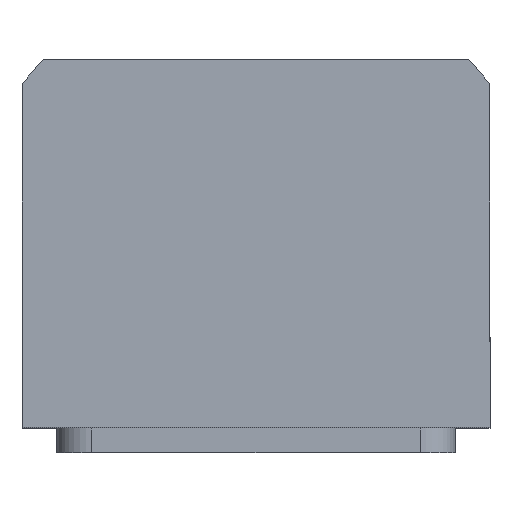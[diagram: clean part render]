
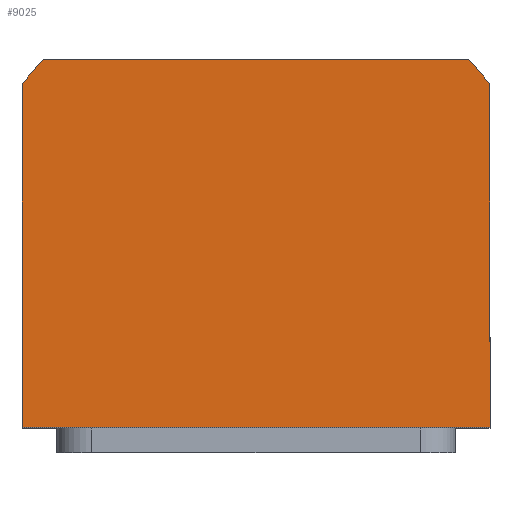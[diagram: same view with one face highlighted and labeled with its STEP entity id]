
A CAD part, top view. The second image highlights one B-rep face of the part: STEP entity #9025.
In plain terms, the highlighted planar face has unit normal (0, 0, 1).
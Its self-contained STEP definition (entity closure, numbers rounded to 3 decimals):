
#148 = EDGE_CURVE ( 'NONE', #938, #3780, #1957, .T. ) ;
#233 = CARTESIAN_POINT ( 'NONE',  ( -42.688, 40., 50. ) ) ;
#435 = FACE_OUTER_BOUND ( 'NONE', #5049, .T. ) ;
#481 = CIRCLE ( 'NONE', #4865, 58.5 ) ;
#516 = DIRECTION ( 'NONE',  ( 0., 0., 1. ) ) ;
#938 = VERTEX_POINT ( 'NONE', #12741 ) ;
#986 = DIRECTION ( 'NONE',  ( 0., -1., 0. ) ) ;
#1611 = PLANE ( 'NONE',  #6368 ) ;
#1957 = LINE ( 'NONE', #2818, #9510 ) ;
#2304 = EDGE_CURVE ( 'NONE', #3780, #9721, #481, .T. ) ;
#2726 = VECTOR ( 'NONE', #12068, 1000. ) ;
#2818 = CARTESIAN_POINT ( 'NONE',  ( 47., 34.832, 50. ) ) ;
#2968 = DIRECTION ( 'NONE',  ( 1., 0., 0. ) ) ;
#3014 = CARTESIAN_POINT ( 'NONE',  ( 0., 0., 50. ) ) ;
#3092 = VERTEX_POINT ( 'NONE', #9789 ) ;
#3780 = VERTEX_POINT ( 'NONE', #13852 ) ;
#4458 = DIRECTION ( 'NONE',  ( 1., 0., 0. ) ) ;
#4598 = ORIENTED_EDGE ( 'NONE', *, *, #14567, .T. ) ;
#4865 = AXIS2_PLACEMENT_3D ( 'NONE', #8112, #11653, #6984 ) ;
#4996 = VERTEX_POINT ( 'NONE', #9203 ) ;
#5049 = EDGE_LOOP ( 'NONE', ( #11268, #7600, #6034, #5483, #4598, #9888 ) ) ;
#5259 = DIRECTION ( 'NONE',  ( 0., 0., 1. ) ) ;
#5483 = ORIENTED_EDGE ( 'NONE', *, *, #12332, .T. ) ;
#5893 = CARTESIAN_POINT ( 'NONE',  ( -47., -34., 50. ) ) ;
#5928 = LINE ( 'NONE', #5893, #12513 ) ;
#6034 = ORIENTED_EDGE ( 'NONE', *, *, #2304, .T. ) ;
#6223 = AXIS2_PLACEMENT_3D ( 'NONE', #3014, #5259, #2968 ) ;
#6368 = AXIS2_PLACEMENT_3D ( 'NONE', #8665, #516, #13250 ) ;
#6464 = DIRECTION ( 'NONE',  ( 0., 1., 0. ) ) ;
#6838 = CARTESIAN_POINT ( 'NONE',  ( 42.688, 40., 50. ) ) ;
#6984 = DIRECTION ( 'NONE',  ( 1., 0., 0. ) ) ;
#7600 = ORIENTED_EDGE ( 'NONE', *, *, #148, .T. ) ;
#7685 = CARTESIAN_POINT ( 'NONE',  ( 47., -34., 50. ) ) ;
#8052 = CARTESIAN_POINT ( 'NONE',  ( -47., 34.832, 50. ) ) ;
#8112 = CARTESIAN_POINT ( 'NONE',  ( 0., 0., 50. ) ) ;
#8665 = CARTESIAN_POINT ( 'NONE',  ( 0., 0., 50. ) ) ;
#9025 = ADVANCED_FACE ( 'NONE', ( #435 ), #1611, .T. ) ;
#9203 = CARTESIAN_POINT ( 'NONE',  ( -42.688, 40., 50. ) ) ;
#9510 = VECTOR ( 'NONE', #6464, 1000. ) ;
#9721 = VERTEX_POINT ( 'NONE', #6838 ) ;
#9789 = CARTESIAN_POINT ( 'NONE',  ( -47., -34., 50. ) ) ;
#9888 = ORIENTED_EDGE ( 'NONE', *, *, #9928, .T. ) ;
#9918 = LINE ( 'NONE', #7685, #10843 ) ;
#9928 = EDGE_CURVE ( 'NONE', #12539, #3092, #5928, .T. ) ;
#10843 = VECTOR ( 'NONE', #4458, 1000. ) ;
#11268 = ORIENTED_EDGE ( 'NONE', *, *, #13588, .T. ) ;
#11653 = DIRECTION ( 'NONE',  ( 0., 0., 1. ) ) ;
#11694 = LINE ( 'NONE', #233, #2726 ) ;
#12068 = DIRECTION ( 'NONE',  ( -1., 0., 0. ) ) ;
#12332 = EDGE_CURVE ( 'NONE', #9721, #4996, #11694, .T. ) ;
#12449 = CIRCLE ( 'NONE', #6223, 58.5 ) ;
#12513 = VECTOR ( 'NONE', #986, 1000. ) ;
#12539 = VERTEX_POINT ( 'NONE', #8052 ) ;
#12741 = CARTESIAN_POINT ( 'NONE',  ( 47., -34., 50. ) ) ;
#13250 = DIRECTION ( 'NONE',  ( 1., 0., 0. ) ) ;
#13588 = EDGE_CURVE ( 'NONE', #3092, #938, #9918, .T. ) ;
#13852 = CARTESIAN_POINT ( 'NONE',  ( 47., 34.832, 50. ) ) ;
#14567 = EDGE_CURVE ( 'NONE', #4996, #12539, #12449, .T. ) ;
